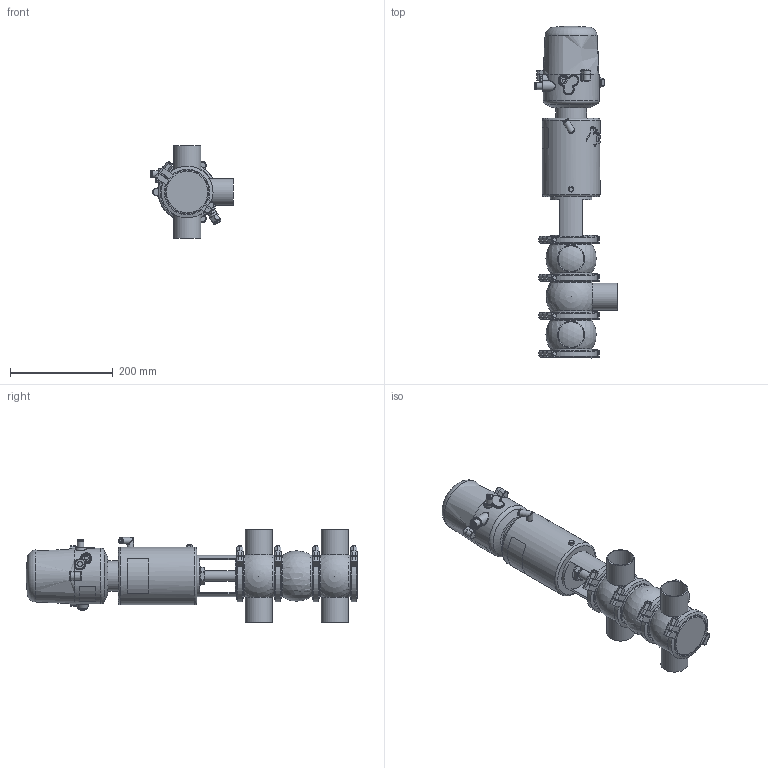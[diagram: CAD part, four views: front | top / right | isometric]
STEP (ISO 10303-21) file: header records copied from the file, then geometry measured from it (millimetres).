
FILE_DESCRIPTION (( 'STEP AP214' ), '1' );
FILE_NAME ('INNOVA L W W DIN 050 T2 AS NC & C-TOP S_10.241.16.0064.STEP', '2024-08-06T12:20:35', ( '' ), ( '' ), 'SwSTEP 2.0', 'SolidWorks 2023', '' );
FILE_SCHEMA (( 'AUTOMOTIVE_DESIGN' ));
Length unit declared in the file: millimetre
Products named in the file (9): 10.426.15.0001_C-TOP S - 1 EV; 10.240.15.0010_DN 050; 10.241.15.0001_DIN 050; 10.240.15.0001_DN 050; 10.240.15.0006_DIN 050; 10.240.15.0014_T2 AS P180; INNOVA L W W DIN 050 T2 AS NC & C-TOP S_10.241.16.0064; 10.240.15.0007_DIN 050; 10.240.15.0017_Estàndard
Assembly tree (12 placements, depth 2):
  INNOVA L W W DIN 050 T2 AS NC & C-TOP S_10.241.16.0064
    10.240.15.0007_DIN 050  x2
    10.240.15.0006_DIN 050
    10.240.15.0010_DN 050
    10.240.15.0014_T2 AS P180
    10.240.15.0017_Estàndard
    10.426.15.0001_C-TOP S - 1 EV
    10.240.15.0001_DN 050  x4
    10.241.15.0001_DIN 050
Bounding box: 161 x 646.27 x 180 mm (x, y, z)
Volume: 4767396.8 mm3; surface area: 483526.4 mm2
Topology: 13 solids, 13 shells, 1315 faces, 3201 edges, 2124 vertices
Faces by surface type: plane 479, cylinder 407, cone 221, bspline 160, torus 36, sphere 12
Full cylindrical faces by diameter (mm): 0.371 x17, 0.512 x16, 0.658 x16, 0.795 x16, 0.94 x15, 1.098 x15, 1.241 x13, 1.382 x13, 1.523 x11, 1.669 x10, 2.201 x1, 4 x2, 5.5 x2, 6 x2, 6.15 x1, 8 x10, 8.5 x1, 10 x1, 10.5 x1, 11 x2, 12.5 x3, 13 x2, 13.5 x2, 16 x1, 17 x3, 20 x3, 20.5 x1, 22 x2, 31 x1, 34.5 x3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
Entity records: 58112 total; most frequent: CARTESIAN_POINT 27766, ORIENTED_EDGE 4516, DIRECTION 3677, EDGE_CURVE 2258, VERTEX_POINT 1609, EDGE_LOOP 1579, AXIS2_PLACEMENT_3D 1510, FACE_OUTER_BOUND 1339
